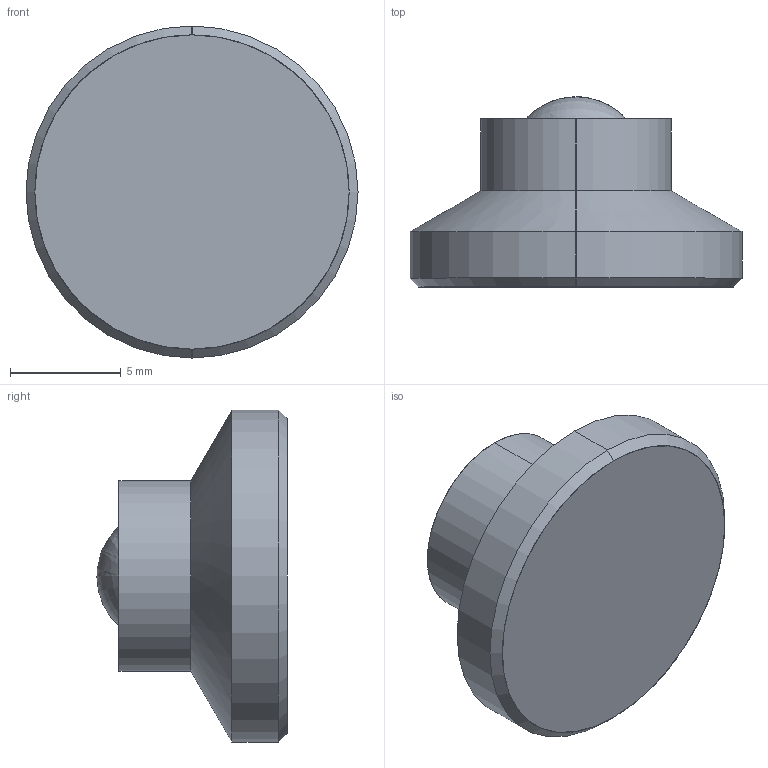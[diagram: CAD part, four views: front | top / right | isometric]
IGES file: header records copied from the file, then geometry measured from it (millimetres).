
Start section: SolidWorks IGES file using analytic representation for surfaces
Global section: file name: C:\Documents and Settings\IanO.IANOHOME\My Documents\Wix and Auto CAD Work\CAD Models\Parametric Models\Wix Models\34530\34530_IGES\34530.W0015.igs; native system: SolidWorks 2009; preprocessor: SolidWorks 2009; author: IanO; date: 110803.110612; units: millimetre
Bounding box: 15 x 8.6 x 15 mm (x, y, z)
Surface area: 704.8 mm2 (no closed solid volume)
Topology: 0 solids, 0 shells, 14 faces, 180 edges, 176 vertices
Faces by surface type: revolution 12, bspline 2
